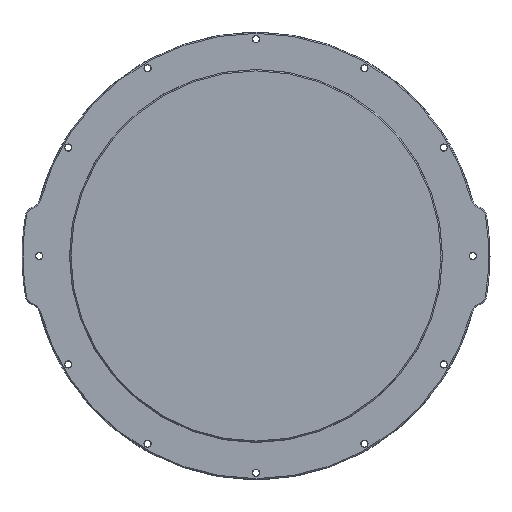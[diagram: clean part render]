
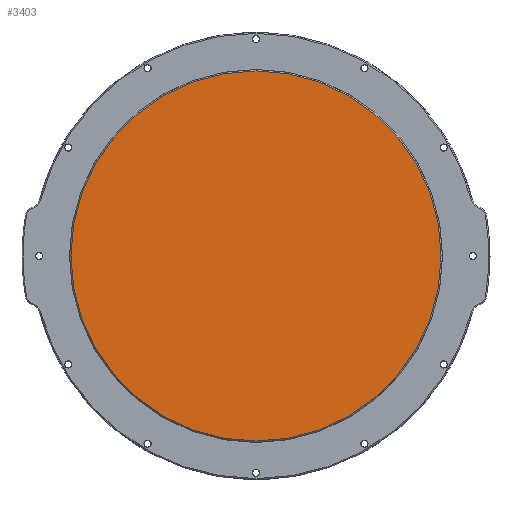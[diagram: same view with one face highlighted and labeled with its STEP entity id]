
A CAD part, top view. The second image highlights one B-rep face of the part: STEP entity #3403.
In plain terms, the highlighted planar face has unit normal (0, 0, 1).
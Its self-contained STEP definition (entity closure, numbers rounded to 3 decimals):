
#706 = CIRCLE ( 'NONE', #6708, 89.25 ) ;
#879 = VERTEX_POINT ( 'NONE', #4988 ) ;
#2364 = FACE_OUTER_BOUND ( 'NONE', #9431, .T. ) ;
#3273 = DIRECTION ( 'NONE',  ( -1., 0., 0. ) ) ;
#3403 = ADVANCED_FACE ( 'NONE', ( #2364 ), #4295, .F. ) ;
#4295 = PLANE ( 'NONE',  #4448 ) ;
#4448 = AXIS2_PLACEMENT_3D ( 'NONE', #7993, #7868, #3273 ) ;
#4629 = VERTEX_POINT ( 'NONE', #9490 ) ;
#4647 = DIRECTION ( 'NONE',  ( -1., 0., 0. ) ) ;
#4988 = CARTESIAN_POINT ( 'NONE',  ( 89.25, 0., 16. ) ) ;
#5776 = CIRCLE ( 'NONE', #6351, 89.25 ) ;
#6351 = AXIS2_PLACEMENT_3D ( 'NONE', #7323, #9256, #4647 ) ;
#6708 = AXIS2_PLACEMENT_3D ( 'NONE', #7714, #8787, #6850 ) ;
#6820 = ORIENTED_EDGE ( 'NONE', *, *, #9154, .T. ) ;
#6850 = DIRECTION ( 'NONE',  ( -1., 0., 0. ) ) ;
#7323 = CARTESIAN_POINT ( 'NONE',  ( 0., 0., 16. ) ) ;
#7714 = CARTESIAN_POINT ( 'NONE',  ( 0., 0., 16. ) ) ;
#7868 = DIRECTION ( 'NONE',  ( 0., 0., -1. ) ) ;
#7993 = CARTESIAN_POINT ( 'NONE',  ( 0., 0., 16. ) ) ;
#8787 = DIRECTION ( 'NONE',  ( 0., 0., 1. ) ) ;
#9154 = EDGE_CURVE ( 'NONE', #879, #4629, #706, .T. ) ;
#9256 = DIRECTION ( 'NONE',  ( 0., 0., 1. ) ) ;
#9431 = EDGE_LOOP ( 'NONE', ( #11620, #6820 ) ) ;
#9490 = CARTESIAN_POINT ( 'NONE',  ( -89.25, 0., 16. ) ) ;
#10777 = EDGE_CURVE ( 'NONE', #4629, #879, #5776, .T. ) ;
#11620 = ORIENTED_EDGE ( 'NONE', *, *, #10777, .T. ) ;
